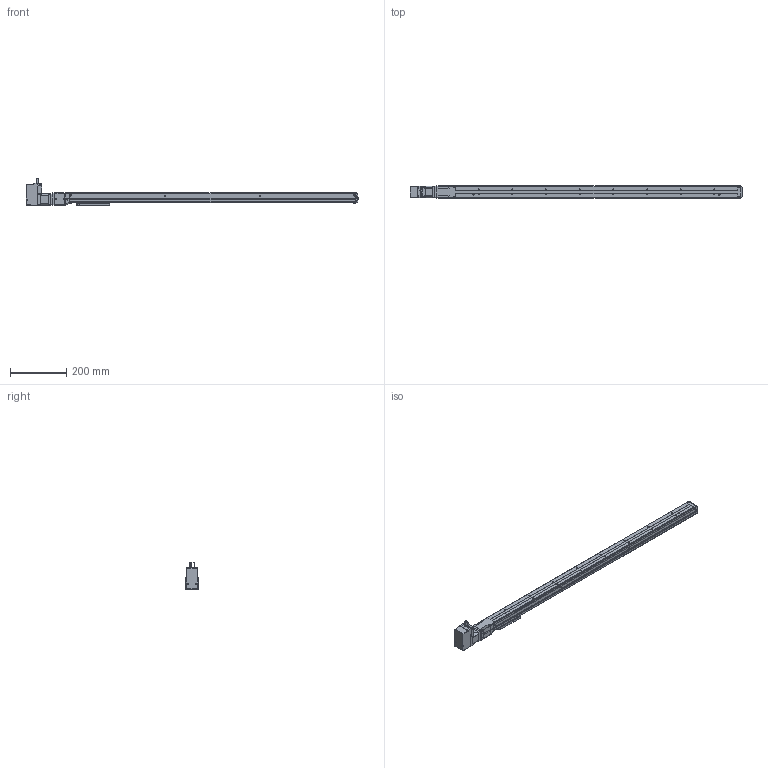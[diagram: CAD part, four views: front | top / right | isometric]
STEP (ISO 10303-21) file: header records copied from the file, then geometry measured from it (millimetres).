
FILE_DESCRIPTION(('FreeCAD Model'),'2;1');
FILE_NAME('Open CASCADE Shape Model','2023-08-01T18:37:33',('Author'),( ''),'Open CASCADE STEP processor 7.5','FreeCAD','Unknown');
FILE_SCHEMA(('AUTOMOTIVE_DESIGN { 1 0 10303 214 1 1 1 1 }'));
Length unit declared in the file: millimetre
Products named in the file (20): RCB0411; Shapes; Shapes001; Shapes002; Shapes003; Shapes004; Shapes005; Shapes006; Shapes007; Shapes008; Shapes009; Shapes010; Shapes011; Shapes012; Shapes013; KSF4-10-0850-0-AR(0); KSF4---(Cover); KSF4-AR---(Motor bracket); KSF4-10-0850---(slider); KSF4-10-0850-0-AR-(08500ARNo0)---(body)
Assembly tree (19 placements, depth 3):
  RCB0411
    Shapes
    Shapes001
    Shapes002
    Shapes003
    Shapes004
    Shapes005
    Shapes006
    Shapes007
    Shapes008
    Shapes009
    Shapes010
    Shapes011
    Shapes012
    Shapes013
    KSF4-10-0850-0-AR(0)
      KSF4---(Cover)
      KSF4-AR---(Motor bracket)
      KSF4-10-0850---(slider)
      KSF4-10-0850-0-AR-(08500ARNo0)---(body)
Bounding box: 1182 x 45.4 x 97.64 mm (x, y, z)
Volume: 1857736.4 mm3; surface area: 343077.6 mm2
Topology: 18 solids, 18 shells, 1309 faces, 3366 edges, 2196 vertices
Faces by surface type: plane 723, cylinder 436, cone 68, torus 53, bspline 19, revolution 6, sphere 4
Full cylindrical faces by diameter (mm): 2.113 x8, 2.459 x3, 3 x6, 3.242 x4, 3.4 x20, 4 x3, 4.5 x2, 5.5 x8, 6 x1, 6.5 x22, 8 x1, 12 x1, 22 x1, 28 x1, 30 x2
Entity records: 95226 total; most frequent: CARTESIAN_POINT 27234, DIRECTION 12781, LINE 7575, VECTOR 7575, ORIENTED_EDGE 6696, PCURVE 6696, DEFINITIONAL_REPRESENTATION 6696, EDGE_CURVE 3348
